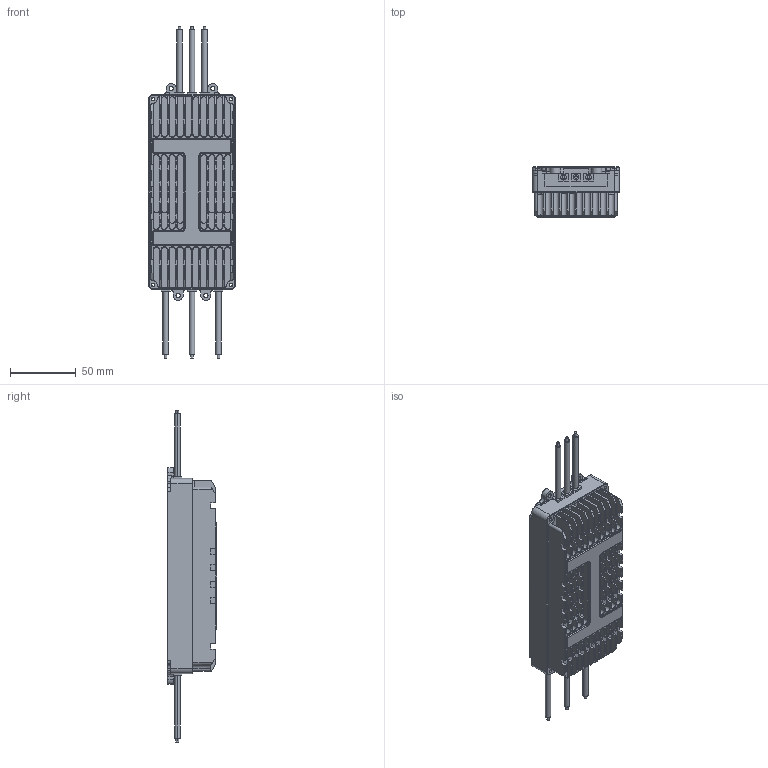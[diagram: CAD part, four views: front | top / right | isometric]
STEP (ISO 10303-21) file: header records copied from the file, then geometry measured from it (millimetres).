
FILE_DESCRIPTION((''),'2;1');
FILE_NAME('HW599-DK_8_2_1','2023-03-02T18:06:12',('22429'),(''),'CREO PARAMETRIC BY PTC INC, 2021063','CREO PARAMETRIC BY PTC INC, 2021063','');
FILE_SCHEMA(('CONFIG_CONTROL_DESIGN'));
Length unit declared in the file: millimetre
Products named in the file (1): HW599-DK_8_2_1
Bounding box: 66 x 37.9 x 251.8 mm (x, y, z)
Volume: 97608.7 mm3; surface area: 108754.4 mm2
Topology: 7 solids, 8 shells, 1503 faces, 4349 edges, 2897 vertices
Faces by surface type: plane 988, cylinder 403, cone 112
Entity records: 49665 total; most frequent: CARTESIAN_POINT 8844, ORIENTED_EDGE 8698, DIRECTION 8487, EDGE_CURVE 4349, VECTOR 3167, LINE 3167, VERTEX_POINT 2897, AXIS2_PLACEMENT_3D 2660
